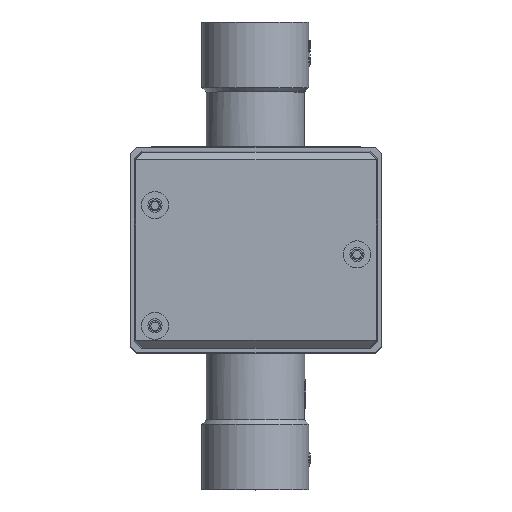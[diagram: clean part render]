
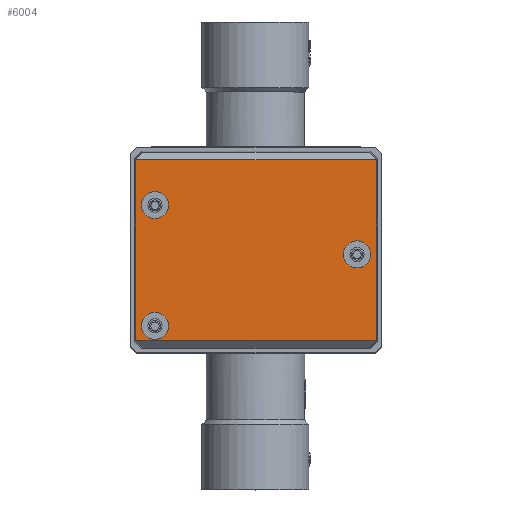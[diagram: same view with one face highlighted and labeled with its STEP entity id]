
A CAD part, top view. The second image highlights one B-rep face of the part: STEP entity #6004.
In plain terms, the highlighted planar face has unit normal (0, 0, 1).
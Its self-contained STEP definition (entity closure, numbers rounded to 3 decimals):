
#2705=LINE('',#31477,#4007);
#2711=LINE('',#31496,#4013);
#2712=LINE('',#31498,#4014);
#2713=LINE('',#31500,#4015);
#2714=LINE('',#31502,#4016);
#2715=LINE('',#31504,#4017);
#2716=LINE('',#31506,#4018);
#2717=LINE('',#31508,#4019);
#4007=VECTOR('',#24404,1.);
#4013=VECTOR('',#24420,1.);
#4014=VECTOR('',#24421,1.);
#4015=VECTOR('',#24422,1.);
#4016=VECTOR('',#24423,1.);
#4017=VECTOR('',#24424,1.);
#4018=VECTOR('',#24425,1.);
#4019=VECTOR('',#24426,1.);
#5178=PLANE('',#21022);
#6004=ADVANCED_FACE('',(#6952,#6953,#6954,#6955),#5178,.T.);
#6952=FACE_BOUND('',#7782,.T.);
#6953=FACE_BOUND('',#7783,.T.);
#6954=FACE_BOUND('',#7784,.T.);
#6955=FACE_BOUND('',#7785,.T.);
#7782=EDGE_LOOP('',(#11246));
#7783=EDGE_LOOP('',(#11247));
#7784=EDGE_LOOP('',(#11248));
#7785=EDGE_LOOP('',(#11249,#11250,#11251,#11252,#11253,#11254,#11255,#11256));
#11246=ORIENTED_EDGE('',*,*,#17762,.T.);
#11247=ORIENTED_EDGE('',*,*,#17763,.T.);
#11248=ORIENTED_EDGE('',*,*,#17764,.T.);
#11249=ORIENTED_EDGE('',*,*,#17756,.F.);
#11250=ORIENTED_EDGE('',*,*,#17765,.T.);
#11251=ORIENTED_EDGE('',*,*,#17766,.T.);
#11252=ORIENTED_EDGE('',*,*,#17767,.T.);
#11253=ORIENTED_EDGE('',*,*,#17768,.F.);
#11254=ORIENTED_EDGE('',*,*,#17769,.T.);
#11255=ORIENTED_EDGE('',*,*,#17770,.T.);
#11256=ORIENTED_EDGE('',*,*,#17771,.T.);
#15333=VERTEX_POINT('',#31476);
#15334=VERTEX_POINT('',#31478);
#15339=VERTEX_POINT('',#31491);
#15340=VERTEX_POINT('',#31493);
#15341=VERTEX_POINT('',#31495);
#15342=VERTEX_POINT('',#31497);
#15343=VERTEX_POINT('',#31499);
#15344=VERTEX_POINT('',#31501);
#15345=VERTEX_POINT('',#31503);
#15346=VERTEX_POINT('',#31505);
#15347=VERTEX_POINT('',#31507);
#17756=EDGE_CURVE('',#15333,#15334,#2705,.T.);
#17762=EDGE_CURVE('',#15339,#15339,#19709,.T.);
#17763=EDGE_CURVE('',#15340,#15340,#19710,.T.);
#17764=EDGE_CURVE('',#15341,#15341,#19711,.T.);
#17765=EDGE_CURVE('',#15333,#15342,#2711,.T.);
#17766=EDGE_CURVE('',#15342,#15343,#2712,.T.);
#17767=EDGE_CURVE('',#15343,#15344,#2713,.T.);
#17768=EDGE_CURVE('',#15345,#15344,#2714,.T.);
#17769=EDGE_CURVE('',#15345,#15346,#2715,.T.);
#17770=EDGE_CURVE('',#15346,#15347,#2716,.T.);
#17771=EDGE_CURVE('',#15347,#15334,#2717,.T.);
#19709=CIRCLE('',#21019,5.5);
#19710=CIRCLE('',#21020,5.5);
#19711=CIRCLE('',#21021,5.5);
#21019=AXIS2_PLACEMENT_3D('',#31490,#24414,#24415);
#21020=AXIS2_PLACEMENT_3D('',#31492,#24416,#24417);
#21021=AXIS2_PLACEMENT_3D('',#31494,#24418,#24419);
#21022=AXIS2_PLACEMENT_3D('',#31509,#24427,#24428);
#24404=DIRECTION('',(0.,1.,0.));
#24414=DIRECTION('',(0.,0.,-1.));
#24415=DIRECTION('',(1.,0.,0.));
#24416=DIRECTION('',(0.,0.,-1.));
#24417=DIRECTION('',(1.,0.,0.));
#24418=DIRECTION('',(0.,0.,-1.));
#24419=DIRECTION('',(1.,0.,0.));
#24420=DIRECTION('',(0.707,-0.707,0.));
#24421=DIRECTION('',(1.,0.,0.));
#24422=DIRECTION('',(0.707,0.707,0.));
#24423=DIRECTION('',(0.,-1.,0.));
#24424=DIRECTION('',(-0.707,0.707,0.));
#24425=DIRECTION('',(-1.,0.,0.));
#24426=DIRECTION('',(-0.707,-0.707,0.));
#24427=DIRECTION('',(0.,0.,1.));
#24428=DIRECTION('',(-1.,0.,0.));
#31476=CARTESIAN_POINT('',(-48.896,-34.894,210.));
#31477=CARTESIAN_POINT('',(-48.896,41.85,210.));
#31478=CARTESIAN_POINT('',(-48.896,38.394,210.));
#31490=CARTESIAN_POINT('',(41.,0.,210.));
#31491=CARTESIAN_POINT('',(46.5,0.,210.));
#31492=CARTESIAN_POINT('',(-41.,20.,210.));
#31493=CARTESIAN_POINT('',(-35.5,20.,210.));
#31494=CARTESIAN_POINT('',(-41.,-29.,210.));
#31495=CARTESIAN_POINT('',(-35.5,-29.,210.));
#31496=CARTESIAN_POINT('',(-42.77,-41.02,210.));
#31497=CARTESIAN_POINT('',(-48.894,-34.896,210.));
#31498=CARTESIAN_POINT('',(0.,-34.896,210.));
#31499=CARTESIAN_POINT('',(48.894,-34.896,210.));
#31500=CARTESIAN_POINT('',(42.77,-41.02,210.));
#31501=CARTESIAN_POINT('',(48.896,-34.894,210.));
#31502=CARTESIAN_POINT('',(48.896,41.85,210.));
#31503=CARTESIAN_POINT('',(48.896,38.394,210.));
#31504=CARTESIAN_POINT('',(42.77,44.52,210.));
#31505=CARTESIAN_POINT('',(48.894,38.396,210.));
#31506=CARTESIAN_POINT('',(0.,38.396,210.));
#31507=CARTESIAN_POINT('',(-48.894,38.396,210.));
#31508=CARTESIAN_POINT('',(-42.77,44.52,210.));
#31509=CARTESIAN_POINT('',(0.,1.75,210.));
